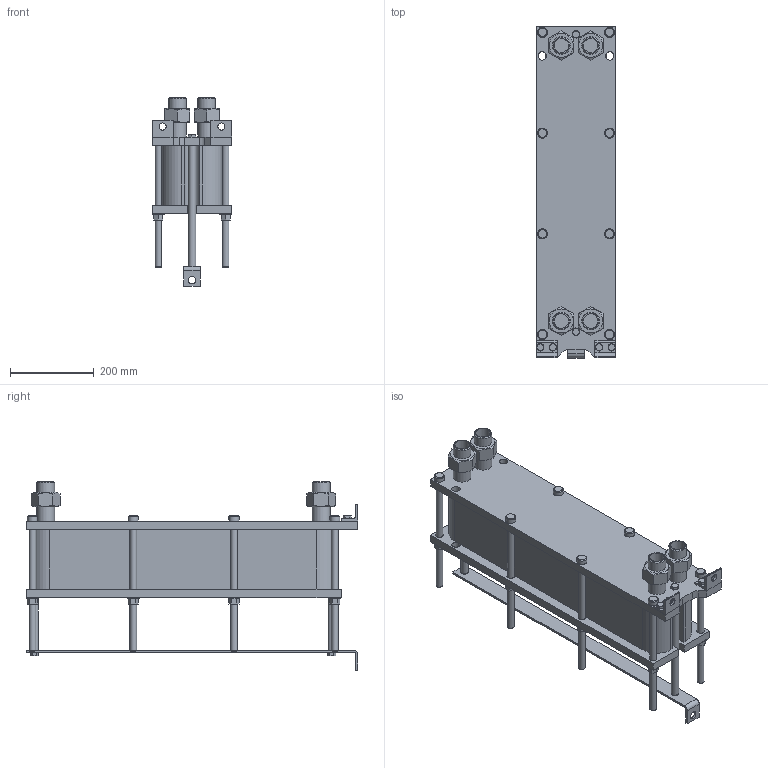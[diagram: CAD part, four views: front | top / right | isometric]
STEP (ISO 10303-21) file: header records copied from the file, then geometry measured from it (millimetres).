
FILE_DESCRIPTION(/* description */ (''),/* implementation_level */ '2;1');
FILE_NAME(/* name */ 'C:\Users\zhuro\Desktop\ENCO\TO\ЭН-008\ЭН-0,5-008-46-1.stp',/* time_stamp */ '2022-06-06T10:48:54+03:00',/* author */ ('zhuro'),/* organization */ (''),/* preprocessor_version */ 'ST-DEVELOPER v18.1',/* originating_system */ 'Autodesk Inventor 2022',/* authorisation */ '');
FILE_SCHEMA (('AUTOMOTIVE_DESIGN { 1 0 10303 214 3 1 1 }'));
Length unit declared in the file: millimetre
Products named in the file (1): ЭН-0,5-008-46-1
Bounding box: 190 x 790 x 449.8 mm (x, y, z)
Volume: 21279457.9 mm3; surface area: 1564748 mm2
Topology: 40 solids, 40 shells, 428 faces, 924 edges, 606 vertices
Faces by surface type: plane 273, cylinder 109, cone 40, torus 6
Full cylindrical faces by diameter (mm): 12 x6, 14 x2, 16 x20, 17 x8, 18 x19, 20 x5, 24 x8, 28 x8, 34.3 x8, 42.3 x8
Entity records: 15843 total; most frequent: CARTESIAN_POINT 5991, DIRECTION 1984, ORIENTED_EDGE 1848, EDGE_CURVE 924, AXIS2_PLACEMENT_3D 715, VERTEX_POINT 606, LINE 554, VECTOR 554
